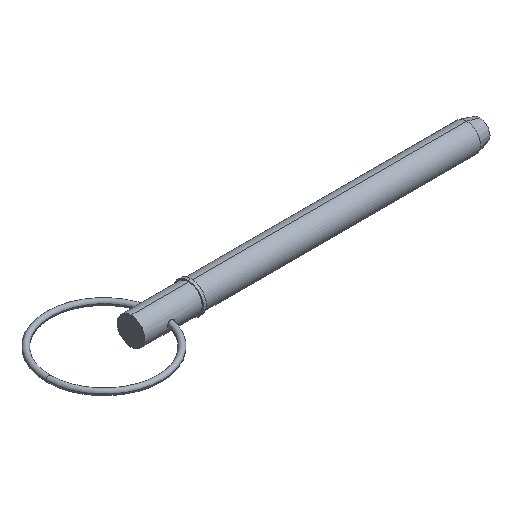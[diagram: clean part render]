
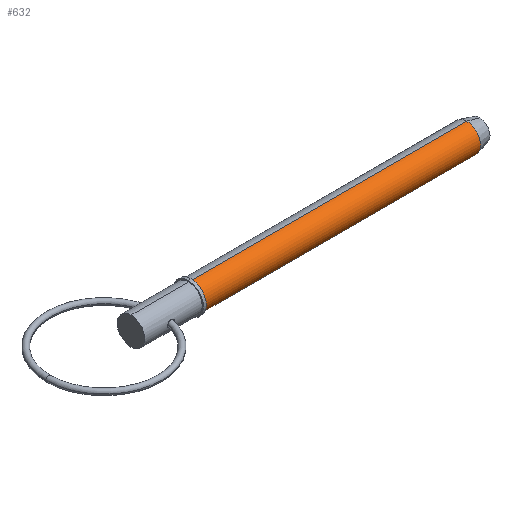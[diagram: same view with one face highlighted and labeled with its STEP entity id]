
A CAD part, isometric view. The second image highlights one B-rep face of the part: STEP entity #632.
In plain terms, the highlighted cylindrical face has radius 5.555 mm (diameter 11.11 mm), a partial arc.
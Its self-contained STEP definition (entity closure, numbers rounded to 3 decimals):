
#11 = DIRECTION ( 'NONE',  ( 0., 0., -1. ) ) ;
#50 = CARTESIAN_POINT ( 'NONE',  ( 0., 0., 5.555 ) ) ;
#57 = CARTESIAN_POINT ( 'NONE',  ( 134.817, 0., 0. ) ) ;
#110 = EDGE_CURVE ( 'NONE', #325, #962, #502, .T. ) ;
#123 = VECTOR ( 'NONE', #373, 1000. ) ;
#130 = AXIS2_PLACEMENT_3D ( 'NONE', #529, #698, #534 ) ;
#142 = DIRECTION ( 'NONE',  ( 1., 0., 0. ) ) ;
#145 = CARTESIAN_POINT ( 'NONE',  ( 134.817, 0., 5.555 ) ) ;
#203 = CYLINDRICAL_SURFACE ( 'NONE', #130, 5.555 ) ;
#221 = EDGE_CURVE ( 'NONE', #649, #325, #922, .T. ) ;
#245 = EDGE_CURVE ( 'NONE', #649, #802, #775, .T. ) ;
#325 = VERTEX_POINT ( 'NONE', #145 ) ;
#329 = ORIENTED_EDGE ( 'NONE', *, *, #245, .T. ) ;
#373 = DIRECTION ( 'NONE',  ( 1., 0., 0. ) ) ;
#502 = CIRCLE ( 'NONE', #783, 5.555 ) ;
#518 = EDGE_LOOP ( 'NONE', ( #795, #329, #812, #952 ) ) ;
#529 = CARTESIAN_POINT ( 'NONE',  ( 0., 0., 0. ) ) ;
#534 = DIRECTION ( 'NONE',  ( 0., 0., -1. ) ) ;
#558 = EDGE_CURVE ( 'NONE', #802, #962, #584, .T. ) ;
#559 = CARTESIAN_POINT ( 'NONE',  ( 134.817, 0., -5.555 ) ) ;
#584 = LINE ( 'NONE', #731, #967 ) ;
#632 = ADVANCED_FACE ( 'NONE', ( #844 ), #203, .T. ) ;
#649 = VERTEX_POINT ( 'NONE', #851 ) ;
#695 = DIRECTION ( 'NONE',  ( 0., 0., -1. ) ) ;
#698 = DIRECTION ( 'NONE',  ( 1., 0., 0. ) ) ;
#707 = DIRECTION ( 'NONE',  ( 1., 0., 0. ) ) ;
#719 = CARTESIAN_POINT ( 'NONE',  ( 24.13, 0., 0. ) ) ;
#731 = CARTESIAN_POINT ( 'NONE',  ( 0., 0., -5.555 ) ) ;
#775 = CIRCLE ( 'NONE', #908, 5.555 ) ;
#783 = AXIS2_PLACEMENT_3D ( 'NONE', #57, #142, #695 ) ;
#793 = CARTESIAN_POINT ( 'NONE',  ( 24.13, 0., -5.555 ) ) ;
#795 = ORIENTED_EDGE ( 'NONE', *, *, #221, .F. ) ;
#802 = VERTEX_POINT ( 'NONE', #793 ) ;
#812 = ORIENTED_EDGE ( 'NONE', *, *, #558, .T. ) ;
#844 = FACE_OUTER_BOUND ( 'NONE', #518, .T. ) ;
#851 = CARTESIAN_POINT ( 'NONE',  ( 24.13, 0., 5.555 ) ) ;
#889 = DIRECTION ( 'NONE',  ( 1., 0., 0. ) ) ;
#908 = AXIS2_PLACEMENT_3D ( 'NONE', #719, #707, #11 ) ;
#922 = LINE ( 'NONE', #50, #123 ) ;
#952 = ORIENTED_EDGE ( 'NONE', *, *, #110, .F. ) ;
#962 = VERTEX_POINT ( 'NONE', #559 ) ;
#967 = VECTOR ( 'NONE', #889, 1000. ) ;
